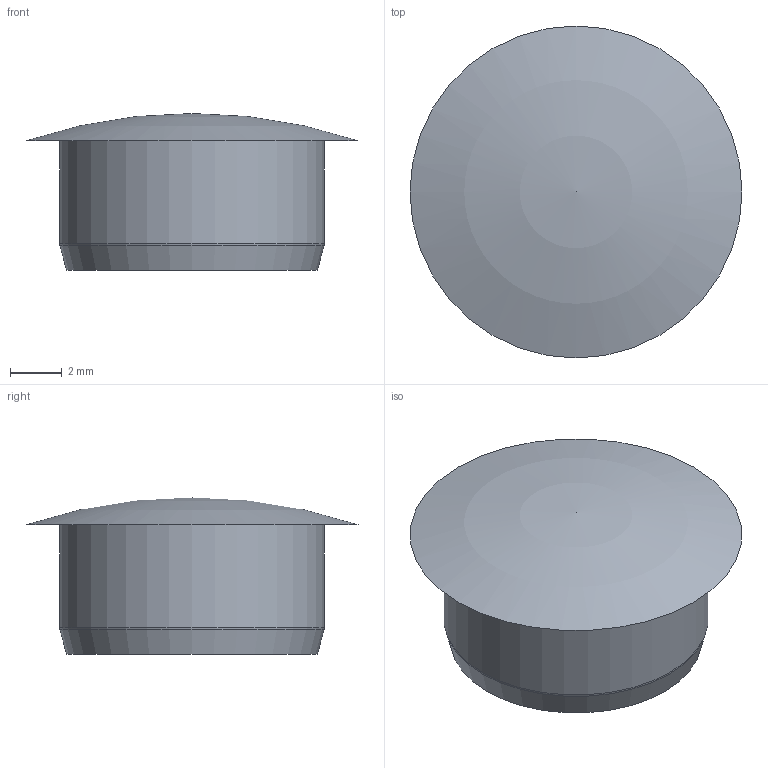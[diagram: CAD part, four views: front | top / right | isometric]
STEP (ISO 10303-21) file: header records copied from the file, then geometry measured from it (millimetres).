
FILE_DESCRIPTION(('STEP AP214'),'1');
FILE_NAME('CP10.stp','2016-12-01T02:28:31',(' '),(' '),'Spatial InterOp 3D',' ',' ');
FILE_SCHEMA(('automotive_design'));
Length unit declared in the file: millimetre
Products named in the file (1): CP10
Bounding box: 12.8 x 12.8 x 6.05 mm (x, y, z)
Volume: 289.4 mm3; surface area: 514.7 mm2
Topology: 1 solids, 1 shells, 8 faces, 14 edges, 9 vertices
Faces by surface type: plane 3, cylinder 2, sphere 1, torus 1, cone 1
Full cylindrical faces by diameter (mm): 7.2 x1, 10.2 x1
Entity records: 234 total; most frequent: DIRECTION 32, CARTESIAN_POINT 23, AXIS2_PLACEMENT_3D 16, EDGE_LOOP 14, ORIENTED_EDGE 14, FACE_OUTER_BOUND 11, STYLED_ITEM 8, PRESENTATION_STYLE_ASSIGNMENT 8
